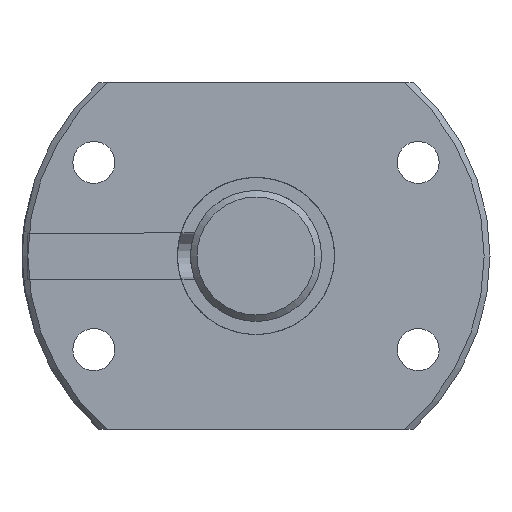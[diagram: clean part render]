
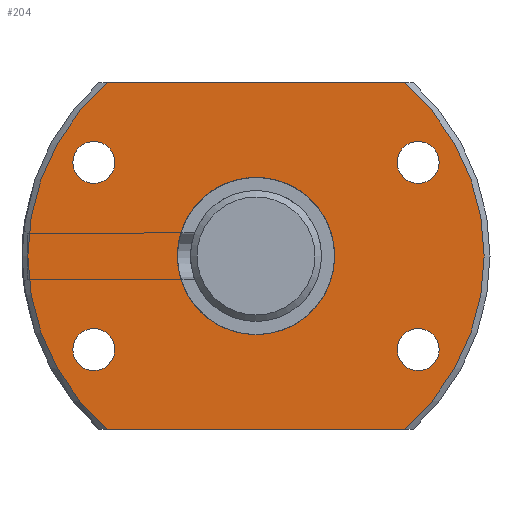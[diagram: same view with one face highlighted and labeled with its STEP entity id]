
A CAD part, left-side view. The second image highlights one B-rep face of the part: STEP entity #204.
In plain terms, the highlighted planar face has unit normal (-1, 0, 0).
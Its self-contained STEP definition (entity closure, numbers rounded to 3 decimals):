
#204 = ADVANCED_FACE( '', ( #311, #312, #313, #314, #315, #316 ), #317, .T. );
#311 = FACE_BOUND( '', #427, .T. );
#312 = FACE_OUTER_BOUND( '', #428, .T. );
#313 = FACE_BOUND( '', #429, .T. );
#314 = FACE_BOUND( '', #430, .T. );
#315 = FACE_BOUND( '', #431, .T. );
#316 = FACE_BOUND( '', #432, .T. );
#317 = PLANE( '', #433 );
#427 = EDGE_LOOP( '', ( #642 ) );
#428 = EDGE_LOOP( '', ( #643, #644, #645, #646 ) );
#429 = EDGE_LOOP( '', ( #647 ) );
#430 = EDGE_LOOP( '', ( #648 ) );
#431 = EDGE_LOOP( '', ( #649 ) );
#432 = EDGE_LOOP( '', ( #650 ) );
#433 = AXIS2_PLACEMENT_3D( '', #651, #652, #653 );
#642 = ORIENTED_EDGE( '', *, *, #718, .T. );
#643 = ORIENTED_EDGE( '', *, *, #738, .F. );
#644 = ORIENTED_EDGE( '', *, *, #703, .F. );
#645 = ORIENTED_EDGE( '', *, *, #709, .F. );
#646 = ORIENTED_EDGE( '', *, *, #739, .F. );
#647 = ORIENTED_EDGE( '', *, *, #695, .T. );
#648 = ORIENTED_EDGE( '', *, *, #697, .T. );
#649 = ORIENTED_EDGE( '', *, *, #699, .T. );
#650 = ORIENTED_EDGE( '', *, *, #701, .T. );
#651 = CARTESIAN_POINT( '', ( 0., 24.375, 0. ) );
#652 = DIRECTION( '', ( -1., 0., 0. ) );
#653 = DIRECTION( '', ( 0., 0., 1. ) );
#695 = EDGE_CURVE( '', #771, #771, #772, .T. );
#697 = EDGE_CURVE( '', #775, #775, #776, .T. );
#699 = EDGE_CURVE( '', #779, #779, #780, .T. );
#701 = EDGE_CURVE( '', #783, #783, #784, .T. );
#703 = EDGE_CURVE( '', #785, #788, #789, .T. );
#709 = EDGE_CURVE( '', #798, #785, #800, .T. );
#718 = EDGE_CURVE( '', #815, #815, #816, .T. );
#738 = EDGE_CURVE( '', #788, #849, #850, .T. );
#739 = EDGE_CURVE( '', #849, #798, #851, .T. );
#771 = VERTEX_POINT( '', #944 );
#772 = CIRCLE( '', #945, 2.25 );
#775 = VERTEX_POINT( '', #948 );
#776 = CIRCLE( '', #949, 2.25 );
#779 = VERTEX_POINT( '', #952 );
#780 = CIRCLE( '', #953, 2.25 );
#783 = VERTEX_POINT( '', #956 );
#784 = CIRCLE( '', #957, 2.25 );
#785 = VERTEX_POINT( '', #958 );
#788 = VERTEX_POINT( '', #964 );
#789 = CIRCLE( '', #965, 24.375 );
#798 = VERTEX_POINT( '', #981 );
#800 = LINE( '', #986, #987 );
#815 = VERTEX_POINT( '', #1039 );
#816 = CIRCLE( '', #1040, 8.4 );
#849 = VERTEX_POINT( '', #1112 );
#850 = LINE( '', #1113, #1114 );
#851 = CIRCLE( '', #1115, 24.375 );
#944 = CARTESIAN_POINT( '', ( 0., 17.321, -12.25 ) );
#945 = AXIS2_PLACEMENT_3D( '', #1162, #1163, #1164 );
#948 = CARTESIAN_POINT( '', ( 0., -17.321, -12.25 ) );
#949 = AXIS2_PLACEMENT_3D( '', #1168, #1169, #1170 );
#952 = CARTESIAN_POINT( '', ( 0., -17.321, 7.75 ) );
#953 = AXIS2_PLACEMENT_3D( '', #1174, #1175, #1176 );
#956 = CARTESIAN_POINT( '', ( 0., 17.321, 7.75 ) );
#957 = AXIS2_PLACEMENT_3D( '', #1180, #1181, #1182 );
#958 = CARTESIAN_POINT( '', ( 0., 15.871, -18.5 ) );
#964 = CARTESIAN_POINT( '', ( 0., 15.871, 18.5 ) );
#965 = AXIS2_PLACEMENT_3D( '', #1183, #1184, #1185 );
#981 = CARTESIAN_POINT( '', ( 0., -15.871, -18.5 ) );
#986 = CARTESIAN_POINT( '', ( 0., -25.1, -18.5 ) );
#987 = VECTOR( '', #1190, 1000. );
#1039 = CARTESIAN_POINT( '', ( 0., 0., -8.4 ) );
#1040 = AXIS2_PLACEMENT_3D( '', #1202, #1203, #1204 );
#1112 = CARTESIAN_POINT( '', ( 0., -15.871, 18.5 ) );
#1113 = CARTESIAN_POINT( '', ( 0., 25.1, 18.5 ) );
#1114 = VECTOR( '', #1246, 1000. );
#1115 = AXIS2_PLACEMENT_3D( '', #1247, #1248, #1249 );
#1162 = CARTESIAN_POINT( '', ( 0., 17.321, -10. ) );
#1163 = DIRECTION( '', ( 1., 0., 0. ) );
#1164 = DIRECTION( '', ( 0., 0., -1. ) );
#1168 = CARTESIAN_POINT( '', ( 0., -17.321, -10. ) );
#1169 = DIRECTION( '', ( 1., 0., 0. ) );
#1170 = DIRECTION( '', ( 0., 0., -1. ) );
#1174 = CARTESIAN_POINT( '', ( 0., -17.321, 10. ) );
#1175 = DIRECTION( '', ( 1., 0., 0. ) );
#1176 = DIRECTION( '', ( 0., 0., -1. ) );
#1180 = CARTESIAN_POINT( '', ( 0., 17.321, 10. ) );
#1181 = DIRECTION( '', ( 1., 0., 0. ) );
#1182 = DIRECTION( '', ( 0., 0., -1. ) );
#1183 = CARTESIAN_POINT( '', ( 0., 0., 0. ) );
#1184 = DIRECTION( '', ( 1., 0., 0. ) );
#1185 = DIRECTION( '', ( 0., 0., -1. ) );
#1190 = DIRECTION( '', ( 0., 1., 0. ) );
#1202 = CARTESIAN_POINT( '', ( 0., 0., 0. ) );
#1203 = DIRECTION( '', ( 1., 0., 0. ) );
#1204 = DIRECTION( '', ( 0., 0., -1. ) );
#1246 = DIRECTION( '', ( 0., -1., 0. ) );
#1247 = CARTESIAN_POINT( '', ( 0., 0., 0. ) );
#1248 = DIRECTION( '', ( 1., 0., 0. ) );
#1249 = DIRECTION( '', ( 0., 0., -1. ) );
